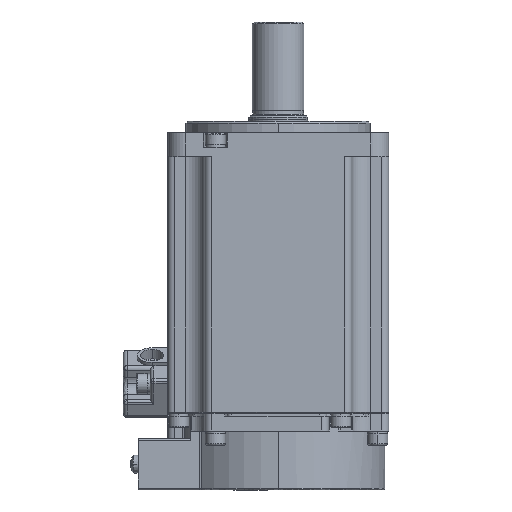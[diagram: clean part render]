
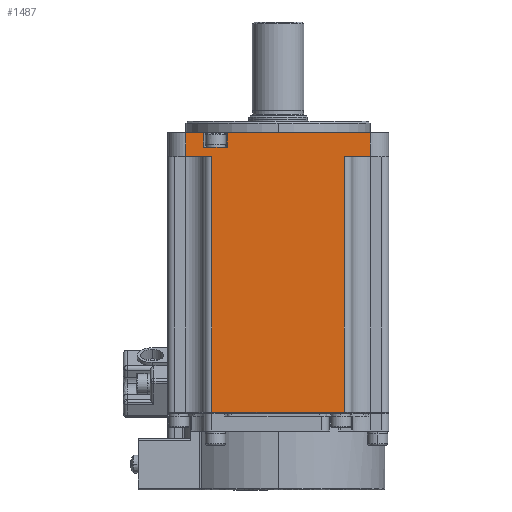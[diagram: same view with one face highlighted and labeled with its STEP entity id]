
A CAD part, left-side view. The second image highlights one B-rep face of the part: STEP entity #1487.
In plain terms, the highlighted planar face has unit normal (-1, 0, 0).
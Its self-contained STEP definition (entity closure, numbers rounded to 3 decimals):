
#1485 = VECTOR ( 'NONE', #9218, 1000. ) ;
#1487 = ADVANCED_FACE ( 'NONE', ( #11974 ), #31296, .T. ) ;
#1524 = LINE ( 'NONE', #29465, #1485 ) ;
#2322 = LINE ( 'NONE', #10463, #2391 ) ;
#2391 = VECTOR ( 'NONE', #34145, 1000. ) ;
#2630 = VECTOR ( 'NONE', #19766, 1000. ) ;
#2996 = LINE ( 'NONE', #14369, #27443 ) ;
#3106 = CARTESIAN_POINT ( 'NONE',  ( -30., -25., 0. ) ) ;
#3317 = AXIS2_PLACEMENT_3D ( 'NONE', #30717, #30680, #30565 ) ;
#3823 = CARTESIAN_POINT ( 'NONE',  ( -30., 20.25, 55.7 ) ) ;
#4147 = CARTESIAN_POINT ( 'NONE',  ( -30., 20.25, 59.7 ) ) ;
#4307 = VECTOR ( 'NONE', #21316, 1000. ) ;
#4394 = LINE ( 'NONE', #8036, #4307 ) ;
#4617 = VECTOR ( 'NONE', #27652, 1000. ) ;
#4659 = LINE ( 'NONE', #7288, #4617 ) ;
#5300 = VERTEX_POINT ( 'NONE', #14244 ) ;
#5838 = ORIENTED_EDGE ( 'NONE', *, *, #34065, .T. ) ;
#6382 = CARTESIAN_POINT ( 'NONE',  ( -30., -18., 53.2 ) ) ;
#6405 = VERTEX_POINT ( 'NONE', #28974 ) ;
#6984 = ORIENTED_EDGE ( 'NONE', *, *, #35773, .T. ) ;
#7153 = DIRECTION ( 'NONE',  ( 0., 0., 1. ) ) ;
#7288 = CARTESIAN_POINT ( 'NONE',  ( -30., -18., 59.7 ) ) ;
#7776 = EDGE_LOOP ( 'NONE', ( #11645, #12303, #14210, #19729, #21338, #26665, #28009, #30960, #37168, #38371, #5838, #6984 ) ) ;
#8036 = CARTESIAN_POINT ( 'NONE',  ( -30., 18., 0. ) ) ;
#9218 = DIRECTION ( 'NONE',  ( 0., -1., 0. ) ) ;
#10228 = CARTESIAN_POINT ( 'NONE',  ( -30., -18., 55.7 ) ) ;
#10463 = CARTESIAN_POINT ( 'NONE',  ( -30., 25., 0. ) ) ;
#11161 = VERTEX_POINT ( 'NONE', #3823 ) ;
#11645 = ORIENTED_EDGE ( 'NONE', *, *, #34589, .T. ) ;
#11974 = FACE_OUTER_BOUND ( 'NONE', #7776, .T. ) ;
#12303 = ORIENTED_EDGE ( 'NONE', *, *, #34454, .T. ) ;
#13172 = VERTEX_POINT ( 'NONE', #22153 ) ;
#13906 = DIRECTION ( 'NONE',  ( 0., 0., 1. ) ) ;
#14198 = CARTESIAN_POINT ( 'NONE',  ( -30., -18., 0. ) ) ;
#14210 = ORIENTED_EDGE ( 'NONE', *, *, #33676, .T. ) ;
#14244 = CARTESIAN_POINT ( 'NONE',  ( -30., 18., -16.2 ) ) ;
#14369 = CARTESIAN_POINT ( 'NONE',  ( -30., -18., 59.7 ) ) ;
#14912 = EDGE_CURVE ( 'NONE', #6405, #13172, #36054, .T. ) ;
#15164 = EDGE_CURVE ( 'NONE', #6405, #5300, #27422, .T. ) ;
#16741 = CARTESIAN_POINT ( 'NONE',  ( -30., -25., 59.7 ) ) ;
#16824 = CARTESIAN_POINT ( 'NONE',  ( -30., 9., -16.2 ) ) ;
#17537 = VECTOR ( 'NONE', #30490, 1000. ) ;
#17618 = LINE ( 'NONE', #10228, #17537 ) ;
#18201 = VERTEX_POINT ( 'NONE', #30826 ) ;
#19729 = ORIENTED_EDGE ( 'NONE', *, *, #15164, .F. ) ;
#19766 = DIRECTION ( 'NONE',  ( 0., -1., 0. ) ) ;
#19821 = CARTESIAN_POINT ( 'NONE',  ( -30., 13.75, 0. ) ) ;
#21316 = DIRECTION ( 'NONE',  ( 0., 0., -1. ) ) ;
#21338 = ORIENTED_EDGE ( 'NONE', *, *, #14912, .T. ) ;
#22153 = CARTESIAN_POINT ( 'NONE',  ( -30., -18., 53.2 ) ) ;
#23528 = CARTESIAN_POINT ( 'NONE',  ( -30., -25., 53.2 ) ) ;
#23895 = CARTESIAN_POINT ( 'NONE',  ( -30., 13.75, 59.7 ) ) ;
#26634 = DIRECTION ( 'NONE',  ( 0., 0., 1. ) ) ;
#26665 = ORIENTED_EDGE ( 'NONE', *, *, #33816, .T. ) ;
#26721 = VECTOR ( 'NONE', #39793, 1000. ) ;
#27251 = VECTOR ( 'NONE', #42809, 1000. ) ;
#27422 = LINE ( 'NONE', #16824, #27251 ) ;
#27443 = VECTOR ( 'NONE', #27793, 1000. ) ;
#27652 = DIRECTION ( 'NONE',  ( 0., 1., 0. ) ) ;
#27793 = DIRECTION ( 'NONE',  ( 0., 1., 0. ) ) ;
#28009 = ORIENTED_EDGE ( 'NONE', *, *, #33937, .T. ) ;
#28974 = CARTESIAN_POINT ( 'NONE',  ( -30., -18., -16.2 ) ) ;
#29465 = CARTESIAN_POINT ( 'NONE',  ( -30., -18., 53.2 ) ) ;
#29938 = VERTEX_POINT ( 'NONE', #38339 ) ;
#29970 = VECTOR ( 'NONE', #7153, 1000. ) ;
#30269 = LINE ( 'NONE', #30778, #29970 ) ;
#30390 = VERTEX_POINT ( 'NONE', #38710 ) ;
#30490 = DIRECTION ( 'NONE',  ( 0., 1., 0. ) ) ;
#30536 = LINE ( 'NONE', #6382, #2630 ) ;
#30565 = DIRECTION ( 'NONE',  ( 0., 0., 1. ) ) ;
#30680 = DIRECTION ( 'NONE',  ( -1., 0., 0. ) ) ;
#30717 = CARTESIAN_POINT ( 'NONE',  ( -30., -18., 0. ) ) ;
#30741 = VERTEX_POINT ( 'NONE', #4147 ) ;
#30778 = CARTESIAN_POINT ( 'NONE',  ( -30., 20.25, 0. ) ) ;
#30826 = CARTESIAN_POINT ( 'NONE',  ( -30., 13.75, 55.7 ) ) ;
#30960 = ORIENTED_EDGE ( 'NONE', *, *, #35824, .T. ) ;
#31296 = PLANE ( 'NONE',  #3317 ) ;
#32984 = VERTEX_POINT ( 'NONE', #34177 ) ;
#33384 = VERTEX_POINT ( 'NONE', #16741 ) ;
#33676 = EDGE_CURVE ( 'NONE', #29938, #5300, #4394, .T. ) ;
#33816 = EDGE_CURVE ( 'NONE', #13172, #38810, #1524, .T. ) ;
#33937 = EDGE_CURVE ( 'NONE', #38810, #33384, #43055, .T. ) ;
#33953 = EDGE_CURVE ( 'NONE', #37048, #18201, #43045, .T. ) ;
#34010 = EDGE_CURVE ( 'NONE', #18201, #11161, #17618, .T. ) ;
#34065 = EDGE_CURVE ( 'NONE', #11161, #30741, #30269, .T. ) ;
#34145 = DIRECTION ( 'NONE',  ( 0., 0., -1. ) ) ;
#34177 = CARTESIAN_POINT ( 'NONE',  ( -30., 25., 53.2 ) ) ;
#34454 = EDGE_CURVE ( 'NONE', #32984, #29938, #30536, .T. ) ;
#34589 = EDGE_CURVE ( 'NONE', #30390, #32984, #2322, .T. ) ;
#35773 = EDGE_CURVE ( 'NONE', #30741, #30390, #4659, .T. ) ;
#35787 = VECTOR ( 'NONE', #13906, 1000. ) ;
#35824 = EDGE_CURVE ( 'NONE', #33384, #37048, #2996, .T. ) ;
#36054 = LINE ( 'NONE', #14198, #35787 ) ;
#37048 = VERTEX_POINT ( 'NONE', #23895 ) ;
#37168 = ORIENTED_EDGE ( 'NONE', *, *, #33953, .T. ) ;
#38339 = CARTESIAN_POINT ( 'NONE',  ( -30., 18., 53.2 ) ) ;
#38371 = ORIENTED_EDGE ( 'NONE', *, *, #34010, .T. ) ;
#38710 = CARTESIAN_POINT ( 'NONE',  ( -30., 25., 59.7 ) ) ;
#38810 = VERTEX_POINT ( 'NONE', #23528 ) ;
#39793 = DIRECTION ( 'NONE',  ( 0., 0., -1. ) ) ;
#42809 = DIRECTION ( 'NONE',  ( 0., 1., 0. ) ) ;
#42987 = VECTOR ( 'NONE', #26634, 1000. ) ;
#43045 = LINE ( 'NONE', #19821, #26721 ) ;
#43055 = LINE ( 'NONE', #3106, #42987 ) ;
